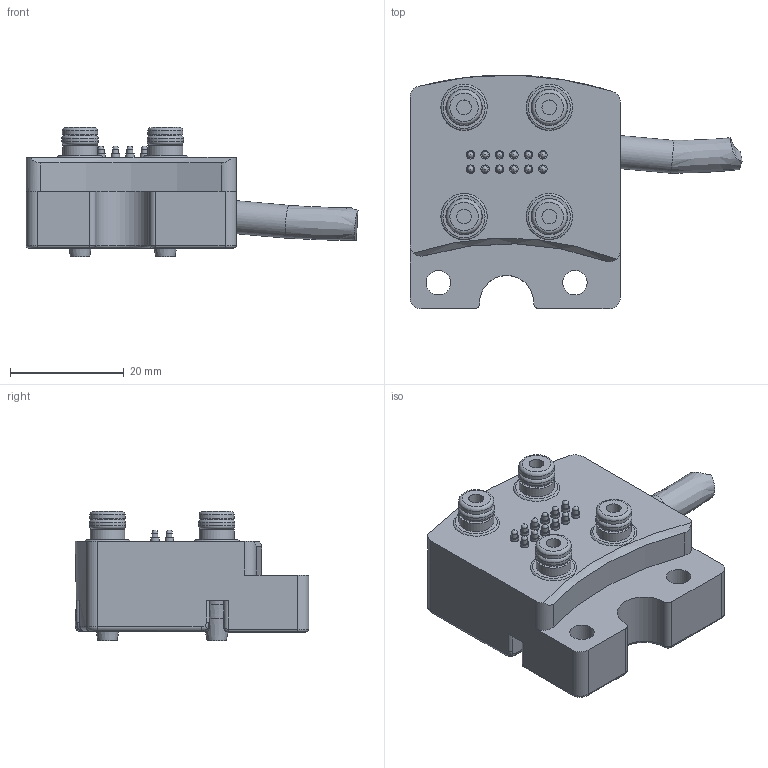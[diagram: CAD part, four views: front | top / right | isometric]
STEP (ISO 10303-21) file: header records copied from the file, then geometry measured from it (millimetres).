
FILE_DESCRIPTION(/* description */ (''),/* implementation_level */ '2;1');
FILE_NAME(/* name */ 'T:\CAD\Standard\MEK\MEK-R\MEK100-R\4. 3D-CAD\4. 3D-CAD - MEK100-U-4PR4-1FE12 Zsm.stp',/* time_stamp */ '2018-05-30T07:38:43+02:00',/* author */ ('vbednarz'),/* organization */ (''),/* preprocessor_version */ 'ST-DEVELOPER v16.13',/* originating_system */ 'Autodesk Inventor 2018',/* authorisation */ '');
FILE_SCHEMA (('AUTOMOTIVE_DESIGN { 1 0 10303 214 3 1 1 }'));
Length unit declared in the file: millimetre
Products named in the file (2): MEK100-U-4PR4-1FE12 Zsm; 4. 3D-CAD - MEK100-U-4PR4-1FE12 Zsm_Substitute_1
Assembly tree (1 placements, depth 2):
  MEK100-U-4PR4-1FE12 Zsm
    4. 3D-CAD - MEK100-U-4PR4-1FE12 Zsm_Substitute_1
Bounding box: 58.37 x 41.08 x 22.7 mm (x, y, z)
Volume: 19765.7 mm3; surface area: 8807.7 mm2
Topology: 1 solids, 1 shells, 377 faces, 830 edges, 534 vertices
Faces by surface type: plane 131, cylinder 110, bspline 79, torus 33, cone 20, sphere 4
Full cylindrical faces by diameter (mm): 1.07 x12, 1.5 x12, 2.6 x8, 3.5 x8, 4.3 x2, 4.5 x3, 5 x3, 5.8 x1, 6.15 x4, 6.2 x4, 6.4 x4, 7.4 x2, 8 x2
Entity records: 15909 total; most frequent: CARTESIAN_POINT 7917, DIRECTION 1527, ORIENTED_EDGE 1406, EDGE_CURVE 703, AXIS2_PLACEMENT_3D 691, EDGE_LOOP 565, VERTEX_POINT 512, CIRCLE 385
